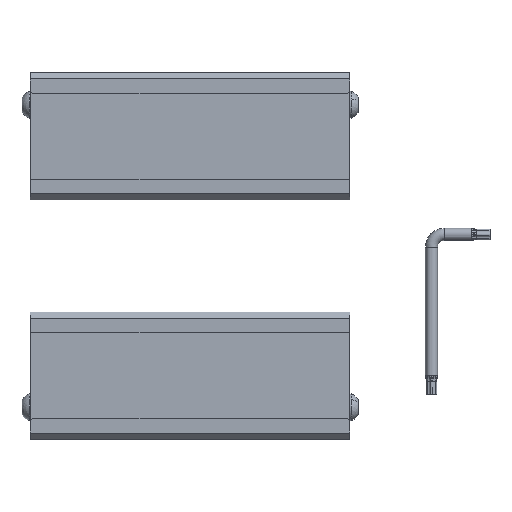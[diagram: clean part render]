
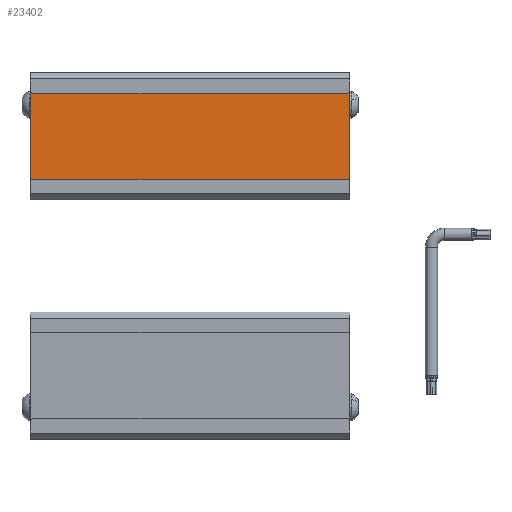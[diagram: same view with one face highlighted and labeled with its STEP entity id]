
A CAD part, front view. The second image highlights one B-rep face of the part: STEP entity #23402.
In plain terms, the highlighted planar face has unit normal (0, -1, 0).
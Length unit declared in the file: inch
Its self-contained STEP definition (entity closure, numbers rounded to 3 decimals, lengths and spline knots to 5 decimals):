
#779 = ORIENTED_EDGE ( 'NONE', *, *, #18913, .T. ) ;
#944 = CARTESIAN_POINT ( 'NONE',  ( 1.76107, 0.31494, -2.475 ) ) ;
#1227 = AXIS2_PLACEMENT_3D ( 'NONE', #23225, #21850, #2798 ) ;
#2274 = EDGE_LOOP ( 'NONE', ( #9869, #22024, #6352, #15469, #24196, #3125, #779, #12921 ) ) ;
#2571 = LINE ( 'NONE', #944, #11316 ) ;
#2798 = DIRECTION ( 'NONE',  ( -1., 0., 0. ) ) ;
#3125 = ORIENTED_EDGE ( 'NONE', *, *, #19694, .F. ) ;
#3304 = VECTOR ( 'NONE', #22881, 39.37008 ) ;
#3511 = LINE ( 'NONE', #10866, #8679 ) ;
#3717 = CARTESIAN_POINT ( 'NONE',  ( 0.21393, 0.31494, -2.475 ) ) ;
#3836 = DIRECTION ( 'NONE',  ( -1., 0., 0. ) ) ;
#3978 = DIRECTION ( 'NONE',  ( -0.259, 0., -0.966 ) ) ;
#5130 = LINE ( 'NONE', #8483, #15280 ) ;
#5566 = EDGE_CURVE ( 'NONE', #12408, #9351, #21130, .T. ) ;
#5568 = EDGE_CURVE ( 'NONE', #6175, #14445, #7945, .T. ) ;
#5781 = VERTEX_POINT ( 'NONE', #10564 ) ;
#5971 = CARTESIAN_POINT ( 'NONE',  ( 1.81479, 0.31494, 2.62549 ) ) ;
#6175 = VERTEX_POINT ( 'NONE', #8908 ) ;
#6271 = VECTOR ( 'NONE', #18732, 39.37008 ) ;
#6352 = ORIENTED_EDGE ( 'NONE', *, *, #12484, .F. ) ;
#6886 = VECTOR ( 'NONE', #3836, 39.37008 ) ;
#7535 = CARTESIAN_POINT ( 'NONE',  ( 0.20054, 0.31494, -2.475 ) ) ;
#7945 = LINE ( 'NONE', #11682, #6886 ) ;
#8165 = PLANE ( 'NONE',  #1227 ) ;
#8483 = CARTESIAN_POINT ( 'NONE',  ( 1.69404, 0.31494, -2.17485 ) ) ;
#8679 = VECTOR ( 'NONE', #24178, 39.37008 ) ;
#8908 = CARTESIAN_POINT ( 'NONE',  ( 1.77446, 0.31494, 2.475 ) ) ;
#9351 = VERTEX_POINT ( 'NONE', #7535 ) ;
#9869 = ORIENTED_EDGE ( 'NONE', *, *, #5568, .T. ) ;
#10202 = CARTESIAN_POINT ( 'NONE',  ( 0.20054, 0.31494, 2.475 ) ) ;
#10431 = DIRECTION ( 'NONE',  ( 0., 0., 1. ) ) ;
#10564 = CARTESIAN_POINT ( 'NONE',  ( 1.76107, 0.31494, -2.425 ) ) ;
#10866 = CARTESIAN_POINT ( 'NONE',  ( 0.21393, 0.31494, -2.475 ) ) ;
#11316 = VECTOR ( 'NONE', #10431, 39.37008 ) ;
#11374 = LINE ( 'NONE', #22575, #6271 ) ;
#11682 = CARTESIAN_POINT ( 'NONE',  ( 0.21393, 0.31494, 2.475 ) ) ;
#12082 = EDGE_CURVE ( 'NONE', #14445, #18832, #11374, .T. ) ;
#12401 = FACE_OUTER_BOUND ( 'NONE', #2274, .T. ) ;
#12408 = VERTEX_POINT ( 'NONE', #16603 ) ;
#12484 = EDGE_CURVE ( 'NONE', #23789, #18832, #3511, .T. ) ;
#12921 = ORIENTED_EDGE ( 'NONE', *, *, #20071, .F. ) ;
#13469 = LINE ( 'NONE', #5971, #19239 ) ;
#13683 = CARTESIAN_POINT ( 'NONE',  ( 0.21393, 0.31494, 2.425 ) ) ;
#14445 = VERTEX_POINT ( 'NONE', #10202 ) ;
#14801 = DIRECTION ( 'NONE',  ( -0.259, 0., -0.966 ) ) ;
#15280 = VECTOR ( 'NONE', #18082, 39.37008 ) ;
#15469 = ORIENTED_EDGE ( 'NONE', *, *, #20143, .T. ) ;
#16186 = CARTESIAN_POINT ( 'NONE',  ( 0.28096, 0.31494, -2.17485 ) ) ;
#16603 = CARTESIAN_POINT ( 'NONE',  ( 1.77446, 0.31494, -2.475 ) ) ;
#16665 = LINE ( 'NONE', #16186, #22017 ) ;
#18082 = DIRECTION ( 'NONE',  ( 0.259, 0., -0.966 ) ) ;
#18718 = VERTEX_POINT ( 'NONE', #20397 ) ;
#18732 = DIRECTION ( 'NONE',  ( 0.259, 0., -0.966 ) ) ;
#18832 = VERTEX_POINT ( 'NONE', #13683 ) ;
#18913 = EDGE_CURVE ( 'NONE', #5781, #18718, #2571, .T. ) ;
#19239 = VECTOR ( 'NONE', #3978, 39.37008 ) ;
#19694 = EDGE_CURVE ( 'NONE', #5781, #12408, #5130, .T. ) ;
#20071 = EDGE_CURVE ( 'NONE', #6175, #18718, #13469, .T. ) ;
#20143 = EDGE_CURVE ( 'NONE', #23789, #9351, #16665, .T. ) ;
#20397 = CARTESIAN_POINT ( 'NONE',  ( 1.76107, 0.31494, 2.425 ) ) ;
#21130 = LINE ( 'NONE', #3717, #3304 ) ;
#21850 = DIRECTION ( 'NONE',  ( 0., 1., 0. ) ) ;
#22017 = VECTOR ( 'NONE', #14801, 39.37008 ) ;
#22024 = ORIENTED_EDGE ( 'NONE', *, *, #12082, .T. ) ;
#22575 = CARTESIAN_POINT ( 'NONE',  ( 0.16021, 0.31494, 2.62549 ) ) ;
#22881 = DIRECTION ( 'NONE',  ( -1., 0., 0. ) ) ;
#23225 = CARTESIAN_POINT ( 'NONE',  ( 0.21393, 0.31494, -2.475 ) ) ;
#23402 = ADVANCED_FACE ( 'NONE', ( #12401 ), #8165, .F. ) ;
#23561 = CARTESIAN_POINT ( 'NONE',  ( 0.21393, 0.31494, -2.425 ) ) ;
#23789 = VERTEX_POINT ( 'NONE', #23561 ) ;
#24178 = DIRECTION ( 'NONE',  ( 0., 0., 1. ) ) ;
#24196 = ORIENTED_EDGE ( 'NONE', *, *, #5566, .F. ) ;
